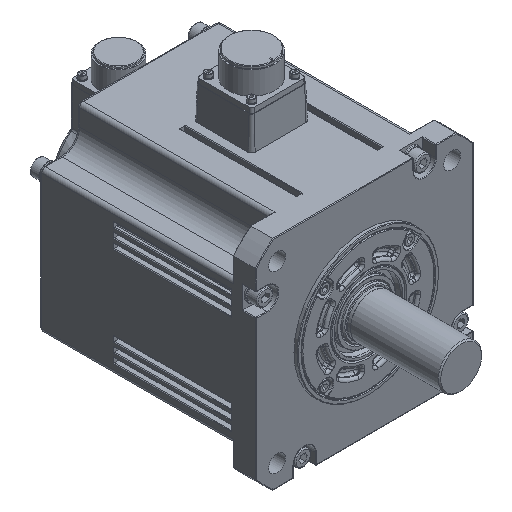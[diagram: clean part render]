
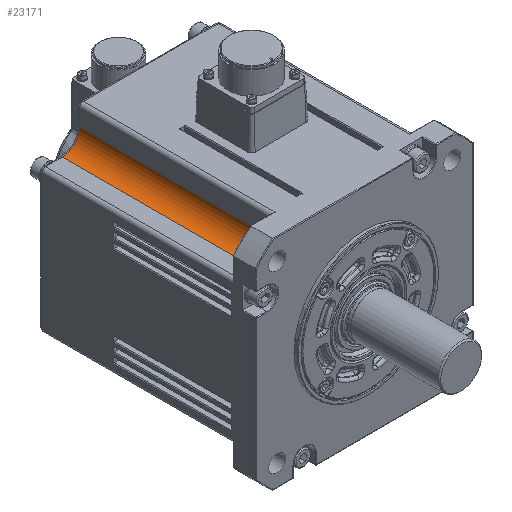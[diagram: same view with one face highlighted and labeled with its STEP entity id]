
A CAD part, isometric view. The second image highlights one B-rep face of the part: STEP entity #23171.
In plain terms, the highlighted cylindrical face has radius 14 mm (diameter 28 mm), a partial arc.
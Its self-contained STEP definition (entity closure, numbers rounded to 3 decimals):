
#5635=CARTESIAN_POINT('',(-77.405,58.891,183.92));
#5636=VERTEX_POINT('',#5635);
#5686=CARTESIAN_POINT('',(-91.405,58.891,169.92));
#5687=VERTEX_POINT('',#5686);
#5695=CARTESIAN_POINT('',(-91.405,58.891,183.92));
#5696=DIRECTION('',(0.0,-1.,0.0));
#5697=DIRECTION('',(0.707,0.0,-0.707));
#5698=AXIS2_PLACEMENT_3D('',#5695,#5696,#5697);
#5699=CIRCLE('',#5698,14.);
#5700=EDGE_CURVE('',#5687,#5636,#5699,.T.);
#22296=CARTESIAN_POINT('',(-77.405,-95.609,183.92));
#22297=VERTEX_POINT('',#22296);
#22304=CARTESIAN_POINT('',(-91.405,-95.609,169.92));
#22305=VERTEX_POINT('',#22304);
#22306=CARTESIAN_POINT('',(-91.405,-95.609,183.92));
#22307=DIRECTION('',(0.0,1.0,0.0));
#22308=DIRECTION('',(-1.0,0.0,0.0));
#22309=AXIS2_PLACEMENT_3D('',#22306,#22307,#22308);
#22310=CIRCLE('',#22309,14.);
#22311=EDGE_CURVE('',#22297,#22305,#22310,.T.);
#23045=CARTESIAN_POINT('',(-77.405,58.891,183.92));
#23046=DIRECTION('',(0.0,-1.0,0.0));
#23047=VECTOR('',#23046,154.5);
#23048=LINE('',#23045,#23047);
#23049=EDGE_CURVE('',#5636,#22297,#23048,.T.);
#23150=CARTESIAN_POINT('',(-91.405,58.891,169.92));
#23151=DIRECTION('',(0.0,-1.0,0.0));
#23152=VECTOR('',#23151,154.5);
#23153=LINE('',#23150,#23152);
#23154=EDGE_CURVE('',#5687,#22305,#23153,.T.);
#23160=CARTESIAN_POINT('',(-91.405,-18.359,183.92));
#23161=DIRECTION('',(0.0,1.0,0.0));
#23162=DIRECTION('',(0.707,0.0,0.707));
#23163=AXIS2_PLACEMENT_3D('',#23160,#23161,#23162);
#23164=CYLINDRICAL_SURFACE('',#23163,14.);
#23165=ORIENTED_EDGE('',*,*,#23154,.T.);
#23166=ORIENTED_EDGE('',*,*,#22311,.F.);
#23167=ORIENTED_EDGE('',*,*,#23049,.F.);
#23168=ORIENTED_EDGE('',*,*,#5700,.F.);
#23169=EDGE_LOOP('',(#23165,#23166,#23167,#23168));
#23170=FACE_OUTER_BOUND('',#23169,.T.);
#23171=ADVANCED_FACE('',(#23170),#23164,.F.);
